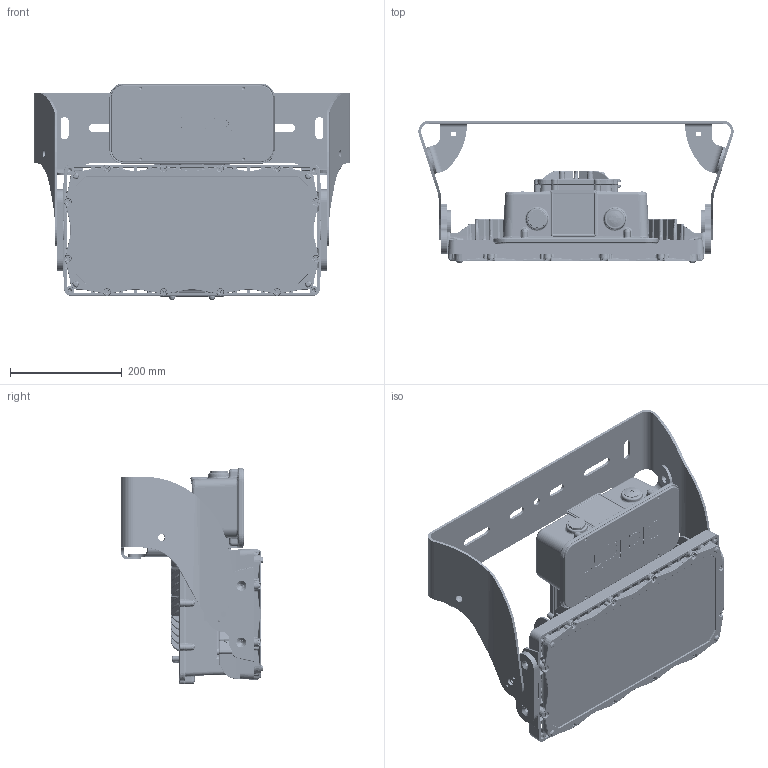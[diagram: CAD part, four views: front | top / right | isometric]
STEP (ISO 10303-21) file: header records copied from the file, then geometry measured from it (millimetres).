
FILE_DESCRIPTION((''),'2;1');
FILE_NAME('8F1_RIGID_MOUNT_BRACKET_ASM','2024-01-17T14:27:47',('NSharma'),(''),'CREO PARAMETRIC BY PTC INC, 2021304','CREO PARAMETRIC BY PTC INC, 2021304','');
FILE_SCHEMA(('CONFIG_CONTROL_DESIGN'));
Products named in the file (22): 3998FLM000100; 2100GPL000100; 6200EUL000201; 3998FLM000300; 8800FLMLEXXXX_ASM; 3050FLM000100; 8800FLM0008XX_ASM; 3050FLM000300; 8800FLM0002XX_ALT_ASM; 3550FLM000100; 4700FLM000100; 6000FLM000100; 8800FLM0003XX_ASM; 1800FLM001600; 1800FLM000230; 1800FLM000240; 1800FLM000240_ASM; 1800FLM000250; 1800FLM000250_ASM; 8800FLM000520_ASM; 1800FLM001200; 8F1_RIGID_MOUNT_BRACKET_ASM
Assembly tree (34 placements, depth 4):
  8F1_RIGID_MOUNT_BRACKET_ASM
    3998FLM000100
    2100GPL000100
    6200EUL000201
    8800FLMLEXXXX_ASM
      3998FLM000300
    8800FLM0008XX_ASM
      3050FLM000100
    8800FLM0002XX_ALT_ASM
      3050FLM000300
    8800FLM0003XX_ASM
      3550FLM000100
      4700FLM000100
      6000FLM000100  x12
    1800FLM001600  x2
    8800FLM000520_ASM
      1800FLM000230
      1800FLM000240_ASM
        1800FLM000240
      1800FLM000250_ASM
        1800FLM000250
    1800FLM001200  x2
Bounding box: 565.48 x 254.83 x 389.04 mm (x, y, z)
Volume: 3997925.2 mm3; surface area: 1863062.5 mm2
Topology: 28 solids, 209 shells, 18326 faces, 42617 edges, 24537 vertices
Faces by surface type: bspline 5875, cylinder 5278, plane 3411, cone 1762, torus 1502, sphere 498
Entity records: 822861 total; most frequent: CARTESIAN_POINT 476923, ORIENTED_EDGE 77918, DIRECTION 63513, EDGE_CURVE 39341, AXIS2_PLACEMENT_3D 25563, VERTEX_POINT 22582, EDGE_LOOP 17921, FACE_OUTER_BOUND 17247
